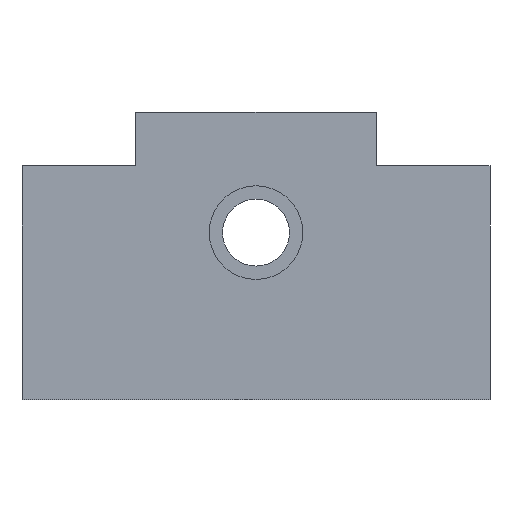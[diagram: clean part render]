
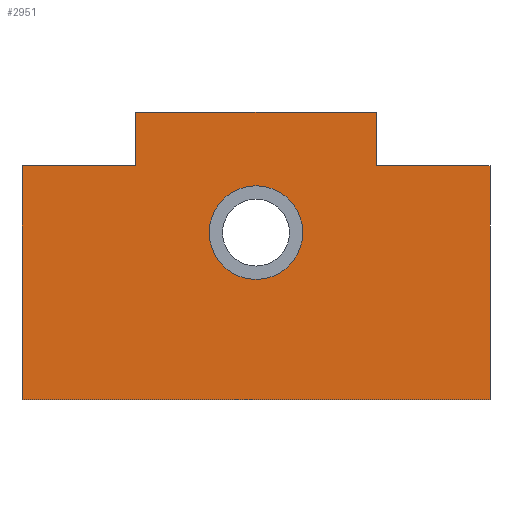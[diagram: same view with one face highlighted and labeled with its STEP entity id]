
A CAD part, left-side view. The second image highlights one B-rep face of the part: STEP entity #2951.
In plain terms, the highlighted planar face has unit normal (-1, 0, 0).
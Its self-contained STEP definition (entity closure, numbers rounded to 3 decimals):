
#2023=CARTESIAN_POINT('',(-24.,7.,0.0));
#2024=VERTEX_POINT('',#2023);
#2025=CARTESIAN_POINT('',(-24.,0.0,0.0));
#2026=DIRECTION('',(1.0,0.0,0.0));
#2027=DIRECTION('',(0.0,1.0,0.0));
#2028=AXIS2_PLACEMENT_3D('',#2025,#2026,#2027);
#2029=CIRCLE('',#2028,7.);
#2030=EDGE_CURVE('',#2024,#2024,#2029,.T.);
#2722=CARTESIAN_POINT('',(-24.,-35.0,-25.));
#2723=VERTEX_POINT('',#2722);
#2724=CARTESIAN_POINT('',(-24.,35.0,-25.));
#2725=VERTEX_POINT('',#2724);
#2726=CARTESIAN_POINT('',(-24.,-35.0,-25.));
#2727=DIRECTION('',(0.0,1.0,0.0));
#2728=VECTOR('',#2727,70.0);
#2729=LINE('',#2726,#2728);
#2730=EDGE_CURVE('',#2723,#2725,#2729,.T.);
#2759=CARTESIAN_POINT('',(-24.,35.0,10.));
#2760=VERTEX_POINT('',#2759);
#2761=CARTESIAN_POINT('',(-24.,35.0,-25.));
#2762=DIRECTION('',(0.0,0.0,1.0));
#2763=VECTOR('',#2762,35.0);
#2764=LINE('',#2761,#2763);
#2765=EDGE_CURVE('',#2725,#2760,#2764,.T.);
#2783=CARTESIAN_POINT('',(-24.,18.0,10.));
#2784=VERTEX_POINT('',#2783);
#2785=CARTESIAN_POINT('',(-24.,35.0,10.));
#2786=DIRECTION('',(0.0,-1.0,0.0));
#2787=VECTOR('',#2786,17.0);
#2788=LINE('',#2785,#2787);
#2789=EDGE_CURVE('',#2760,#2784,#2788,.T.);
#2810=CARTESIAN_POINT('',(-24.,18.0,18.));
#2811=VERTEX_POINT('',#2810);
#2812=CARTESIAN_POINT('',(-24.,18.0,10.));
#2813=DIRECTION('',(0.0,0.0,1.0));
#2814=VECTOR('',#2813,8.);
#2815=LINE('',#2812,#2814);
#2816=EDGE_CURVE('',#2784,#2811,#2815,.T.);
#2838=CARTESIAN_POINT('',(-24.,-18.0,18.));
#2839=VERTEX_POINT('',#2838);
#2840=CARTESIAN_POINT('',(-24.,18.0,18.));
#2841=DIRECTION('',(0.0,-1.0,0.0));
#2842=VECTOR('',#2841,36.0);
#2843=LINE('',#2840,#2842);
#2844=EDGE_CURVE('',#2811,#2839,#2843,.T.);
#2866=CARTESIAN_POINT('',(-24.,-18.0,10.));
#2867=VERTEX_POINT('',#2866);
#2868=CARTESIAN_POINT('',(-24.,-18.0,18.));
#2869=DIRECTION('',(0.0,0.0,-1.0));
#2870=VECTOR('',#2869,8.);
#2871=LINE('',#2868,#2870);
#2872=EDGE_CURVE('',#2839,#2867,#2871,.T.);
#2894=CARTESIAN_POINT('',(-24.,-35.0,10.));
#2895=VERTEX_POINT('',#2894);
#2896=CARTESIAN_POINT('',(-24.,-18.0,10.));
#2897=DIRECTION('',(0.0,-1.0,0.0));
#2898=VECTOR('',#2897,17.0);
#2899=LINE('',#2896,#2898);
#2900=EDGE_CURVE('',#2867,#2895,#2899,.T.);
#2921=CARTESIAN_POINT('',(-24.,-35.0,10.));
#2922=DIRECTION('',(0.0,0.0,-1.0));
#2923=VECTOR('',#2922,35.0);
#2924=LINE('',#2921,#2923);
#2925=EDGE_CURVE('',#2895,#2723,#2924,.T.);
#2933=CARTESIAN_POINT('',(-24.,0.,-4.704));
#2934=DIRECTION('',(1.0,0.0,0.0));
#2935=DIRECTION('',(0.0,0.0,-1.0));
#2936=AXIS2_PLACEMENT_3D('',#2933,#2934,#2935);
#2937=PLANE('',#2936);
#2938=ORIENTED_EDGE('',*,*,#2730,.F.);
#2939=ORIENTED_EDGE('',*,*,#2925,.F.);
#2940=ORIENTED_EDGE('',*,*,#2900,.F.);
#2941=ORIENTED_EDGE('',*,*,#2872,.F.);
#2942=ORIENTED_EDGE('',*,*,#2844,.F.);
#2943=ORIENTED_EDGE('',*,*,#2816,.F.);
#2944=ORIENTED_EDGE('',*,*,#2789,.F.);
#2945=ORIENTED_EDGE('',*,*,#2765,.F.);
#2946=EDGE_LOOP('',(#2938,#2939,#2940,#2941,#2942,#2943,#2944,#2945));
#2947=FACE_OUTER_BOUND('',#2946,.T.);
#2948=ORIENTED_EDGE('',*,*,#2030,.T.);
#2949=EDGE_LOOP('',(#2948));
#2950=FACE_BOUND('',#2949,.T.);
#2951=ADVANCED_FACE('',(#2947,#2950),#2937,.F.);
